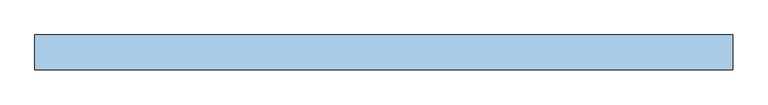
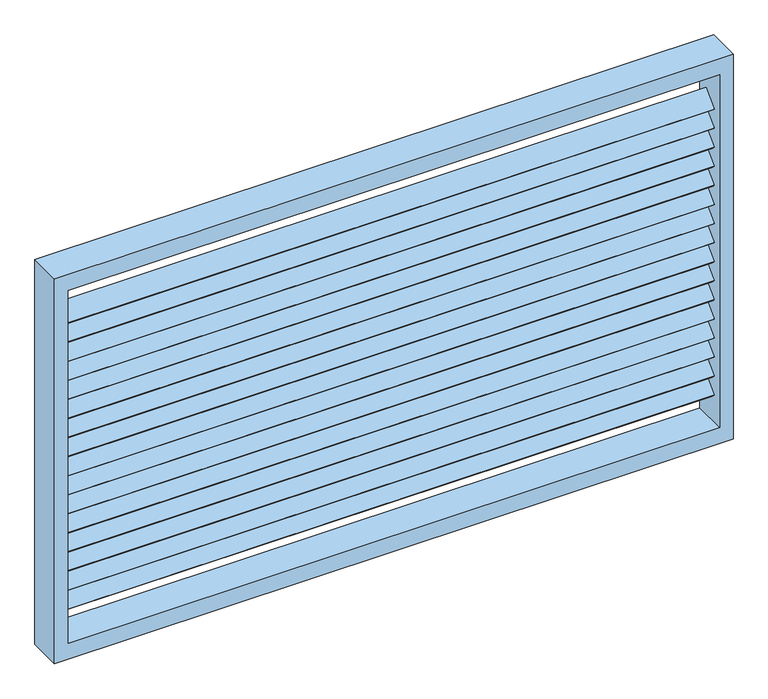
"""IFC4 building model written with IfcOpenShell, lengths in millimetres: window geometry, 百叶窗 : 类型 1."""

from ifc_helpers import new_model, si_unit, frame, origin, place, context, project, spatial, polyline, outline, extrude, source, transform, mapped, element, save


def window_b397132c(model_context):
    return source(origin(), model_context, "Body", "SweptSolid", [
        extrude(outline(polyline([(0.0, -8.0), (0.0, 0.0), (1920.0, 0.0), (1920.0, -8.0), (0.0, -8.0)])), frame((-835.0, -18.3847763, 1762.455623), z_axis=(0.0, 0.7071067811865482, 0.707106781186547), x_axis=(1.0, 0.0, 0.0)), (0.0, 0.0, 1.0), 60.0),
        extrude(outline(polyline([(0.0, -8.0000001), (0.0, 0.0), (1920.0, 0.0), (1920.0, -8.0000001), (0.0, -8.0000001)])), frame((-835.0, -18.3847763, 1702.994507), z_axis=(0.0, 0.7071067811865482, 0.707106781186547), x_axis=(1.0, 0.0, 0.0)), (0.0, 0.0, 1.0), 60.0),
        extrude(outline(polyline([(0.0, -8.0000001), (0.0, 0.0), (1920.0, 0.0), (1920.0, -8.0000001), (0.0, -8.0000001)])), frame((-835.0, -18.3847763, 1643.5333911), z_axis=(0.0, 0.7071067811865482, 0.707106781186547), x_axis=(1.0, 0.0, 0.0)), (0.0, 0.0, 1.0), 60.0),
        extrude(outline(polyline([(0.0, -8.0), (0.0, 0.0), (1920.0, 0.0), (1920.0, -8.0), (0.0, -8.0)])), frame((-835.0, -18.3847763, 1584.0722752), z_axis=(0.0, 0.7071067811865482, 0.707106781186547), x_axis=(1.0, 0.0, 0.0)), (0.0, 0.0, 1.0), 60.0),
        extrude(outline(polyline([(0.0, -8.0), (0.0, 0.0), (1920.0, 0.0), (1920.0, -8.0), (0.0, -8.0)])), frame((-835.0, -18.3847763, 1524.6111593), z_axis=(0.0, 0.7071067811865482, 0.707106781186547), x_axis=(1.0, 0.0, 0.0)), (0.0, 0.0, 1.0), 60.0),
        extrude(outline(polyline([(0.0, -8.0000001), (0.0, 0.0), (1920.0, 0.0), (1920.0, -8.0000001), (0.0, -8.0000001)])), frame((-835.0, -18.3847763, 1465.1500433), z_axis=(0.0, 0.7071067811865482, 0.707106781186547), x_axis=(1.0, 0.0, 0.0)), (0.0, 0.0, 1.0), 60.0),
        extrude(outline(polyline([(0.0, -8.0000001), (0.0, 0.0), (1920.0, 0.0), (1920.0, -8.0000001), (0.0, -8.0000001)])), frame((-835.0, -18.3847763, 1405.6889274), z_axis=(0.0, 0.7071067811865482, 0.707106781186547), x_axis=(1.0, 0.0, 0.0)), (0.0, 0.0, 1.0), 60.0),
        extrude(outline(polyline([(0.0, -8.0), (0.0, 0.0), (1920.0, 0.0), (1920.0, -8.0), (0.0, -8.0)])), frame((-835.0, -18.3847763, 1346.2278115), z_axis=(0.0, 0.7071067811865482, 0.707106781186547), x_axis=(1.0, 0.0, 0.0)), (0.0, 0.0, 1.0), 60.0),
        extrude(outline(polyline([(0.0, -8.0), (0.0, 0.0), (1920.0, 0.0), (1920.0, -8.0), (0.0, -8.0)])), frame((-835.0, -18.3847763, 1286.7666956), z_axis=(0.0, 0.7071067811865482, 0.707106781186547), x_axis=(1.0, 0.0, 0.0)), (0.0, 0.0, 1.0), 60.0),
        extrude(outline(polyline([(0.0, -8.0000001), (0.0, 0.0), (1920.0, 0.0), (1920.0, -8.0000001), (0.0, -8.0000001)])), frame((-835.0, -18.3847763, 1227.3055796), z_axis=(0.0, 0.7071067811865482, 0.707106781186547), x_axis=(1.0, 0.0, 0.0)), (0.0, 0.0, 1.0), 60.0),
        extrude(outline(polyline([(0.0, -8.0000001), (0.0, 0.0), (1920.0, 0.0), (1920.0, -8.0000001), (0.0, -8.0000001)])), frame((-835.0, -18.3847763, 1167.8444637), z_axis=(0.0, 0.7071067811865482, 0.707106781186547), x_axis=(1.0, 0.0, 0.0)), (0.0, 0.0, 1.0), 60.0),
        extrude(outline(polyline([(0.0, -8.0), (0.0, 0.0), (1920.0, 0.0), (1920.0, -8.0), (0.0, -8.0)])), frame((-835.0, -18.3847763, 1108.3833478), z_axis=(0.0, 0.7071067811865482, 0.707106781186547), x_axis=(1.0, 0.0, 0.0)), (0.0, 0.0, 1.0), 60.0),
        extrude(outline(polyline([(0.0, -8.0), (0.0, 0.0), (1920.0, 0.0), (1920.0, -8.0), (0.0, -8.0)])), frame((-835.0, -18.3847763, 1048.9222319), z_axis=(0.0, 0.7071067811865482, 0.707106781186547), x_axis=(1.0, 0.0, 0.0)), (0.0, 0.0, 1.0), 60.0),
        extrude(outline(polyline([(0.0, -8.0000001), (0.0, 0.0), (1920.0, 0.0), (1920.0, -8.0000001), (0.0, -8.0000001)])), frame((-835.0, -18.3847763, 989.4611159), z_axis=(0.0, 0.7071067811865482, 0.707106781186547), x_axis=(1.0, 0.0, 0.0)), (0.0, 0.0, 1.0), 60.0),
        extrude(outline(polyline([(0.0, -8.0), (0.0, 0.0), (1920.0, 0.0), (1920.0, -8.0), (0.0, -8.0)])), frame((-835.0, -18.3847763, 1821.9167389), z_axis=(0.0, 0.7071067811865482, 0.707106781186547), x_axis=(1.0, 0.0, 0.0)), (0.0, 0.0, 1.0), 60.0),
        extrude(outline(polyline([(0.0, -8.0), (0.0, 0.0), (1920.0, 0.0), (1920.0, -8.0), (0.0, -8.0)])), frame((-835.0, -18.3847763, 930.0), z_axis=(0.0, 0.7071067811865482, 0.707106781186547), x_axis=(1.0, 0.0, 0.0)), (0.0, 0.0, 1.0), 60.0),
        extrude(outline(polyline([(2000.0, 1125.0), (2000.0, -875.0), (800.0, -875.0), (800.0, 1125.0), (2000.0, 1125.0)]), holes=[polyline([(1950.0, 1085.0), (850.0, 1085.0), (850.0, -835.0), (1950.0, -835.0), (1950.0, 1085.0)])]), frame((0.0, -50.0, 0.0), z_axis=(0.0, 1.0, 0.0), x_axis=(0.0, 0.0, 1.0)), (0.0, 0.0, 1.0), 100.0),
    ])


if __name__ == "__main__":
    model = new_model("IFC4")
    model_context = context("Model", 3, world=origin())
    ifc_project = project(units=[si_unit("LENGTHUNIT", "METRE", prefix="MILLI")], contexts=[model_context])
    site = spatial("IfcSite", under=ifc_project)
    building = spatial("IfcBuilding", under=site)
    placement = place(None, origin())
    window_shape = window_b397132c(model_context)
    element("IfcWindow", 1, ObjectType="百叶窗 : 类型 1", at=placement, inside=building, context=model_context, shape_type="MappedRepresentation", body=[
        mapped(window_shape, transform((0.0, 0.0, 0.0), x_axis=(1.0, 0.0, 0.0), y_axis=(0.0, 1.0, 0.0), z_axis=(0.0, 0.0, 1.0))),
    ])
    save(model, "model.ifc")
